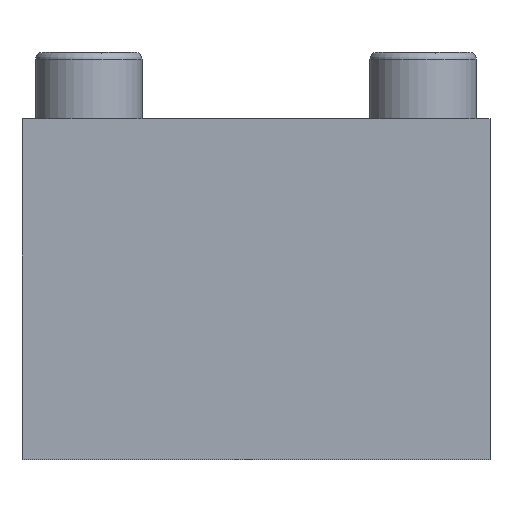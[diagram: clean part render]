
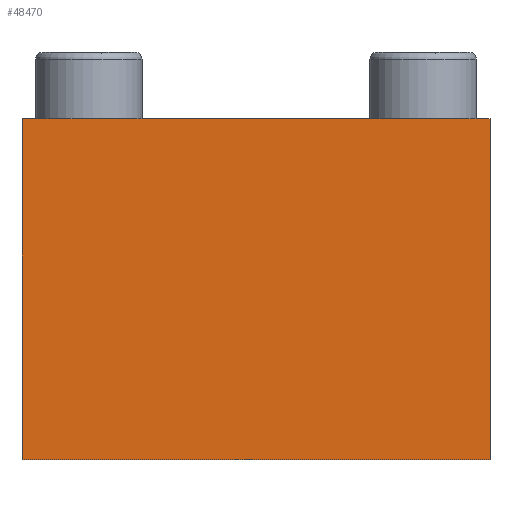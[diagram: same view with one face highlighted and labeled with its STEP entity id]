
A CAD part, front view. The second image highlights one B-rep face of the part: STEP entity #48470.
In plain terms, the highlighted planar face has unit normal (0, -1, 0).
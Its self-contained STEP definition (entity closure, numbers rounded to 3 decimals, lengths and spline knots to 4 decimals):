
#5212=FACE_OUTER_BOUND('',#7818,.T.);
#7818=EDGE_LOOP('',(#32893,#32894,#32895,#32896));
#10773=LINE('',#62645,#16025);
#10777=LINE('',#62654,#16029);
#10778=LINE('',#62655,#16030);
#10779=LINE('',#62656,#16031);
#16025=VECTOR('',#53193,5.1);
#16029=VECTOR('',#53199,5.1);
#16030=VECTOR('',#53200,7.);
#16031=VECTOR('',#53201,7.);
#21409=VERTEX_POINT('',#62643);
#21410=VERTEX_POINT('',#62644);
#21413=VERTEX_POINT('',#62652);
#21414=VERTEX_POINT('',#62653);
#26021=EDGE_CURVE('',#21409,#21410,#10773,.T.);
#26025=EDGE_CURVE('',#21413,#21414,#10777,.T.);
#26026=EDGE_CURVE('',#21409,#21413,#10778,.T.);
#26027=EDGE_CURVE('',#21414,#21410,#10779,.T.);
#32893=ORIENTED_EDGE('',*,*,#26025,.F.);
#32894=ORIENTED_EDGE('',*,*,#26026,.F.);
#32895=ORIENTED_EDGE('',*,*,#26021,.T.);
#32896=ORIENTED_EDGE('',*,*,#26027,.F.);
#46620=PLANE('',#51082);
#48470=ADVANCED_FACE('',(#5212),#46620,.T.);
#51082=AXIS2_PLACEMENT_3D('',#62651,#53197,#53198);
#53193=DIRECTION('',(0.,0.,-1.));
#53197=DIRECTION('center_axis',(0.,-1.,0.));
#53198=DIRECTION('ref_axis',(-1.,0.,0.));
#53199=DIRECTION('',(0.,0.,-1.));
#53200=DIRECTION('',(1.,0.,0.));
#53201=DIRECTION('',(-1.,0.,0.));
#62643=CARTESIAN_POINT('',(-3.5,-20.,4.1));
#62644=CARTESIAN_POINT('',(-3.5,-20.,-1.));
#62645=CARTESIAN_POINT('',(-3.5,-20.,0.));
#62651=CARTESIAN_POINT('Origin',(3.5,-20.,3.1));
#62652=CARTESIAN_POINT('',(3.5,-20.,4.1));
#62653=CARTESIAN_POINT('',(3.5,-20.,-1.));
#62654=CARTESIAN_POINT('',(3.5,-20.,0.));
#62655=CARTESIAN_POINT('',(3.5,-20.,4.1));
#62656=CARTESIAN_POINT('',(3.5,-20.,-1.));
